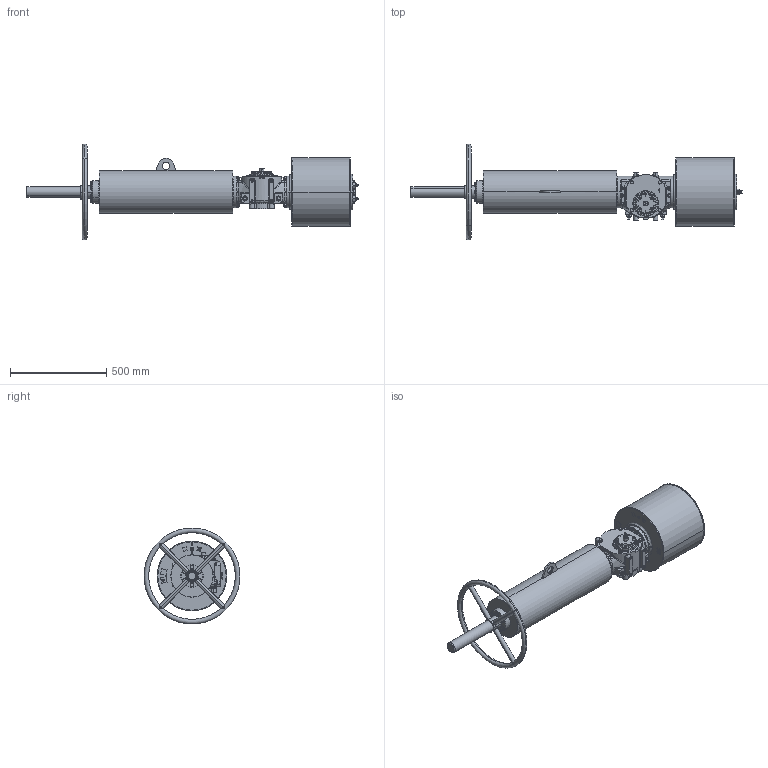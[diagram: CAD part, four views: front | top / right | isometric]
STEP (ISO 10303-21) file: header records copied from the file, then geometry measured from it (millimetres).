
FILE_DESCRIPTION (( 'STEP AP203' ), '1' );
FILE_NAME ('VTS1-350-SR-MS-FO.STEP', '2022-12-31T08:42:56', ( '' ), ( '' ), 'SwSTEP 2.0', 'SolidWorks 2020', '' );
FILE_SCHEMA (( 'CONFIG_CONTROL_DESIGN' ));
Length unit declared in the file: millimetre
Products named in the file (1): VTS1-350-SR-MS-FO
Bounding box: 1726.2 x 498.1 x 498.1 mm (x, y, z)
Volume: 66568477.5 mm3; surface area: 2205223.8 mm2
Topology: 30 solids, 37 shells, 2295 faces, 6252 edges, 3942 vertices
Faces by surface type: plane 774, cylinder 640, cone 426, bspline 227, sphere 124, torus 104
Entity records: 103230 total; most frequent: CARTESIAN_POINT 49528, ORIENTED_EDGE 12044, DIRECTION 10176, EDGE_CURVE 6022, AXIS2_PLACEMENT_3D 4093, VERTEX_POINT 3894, EDGE_LOOP 2518, ADVANCED_FACE 2295
